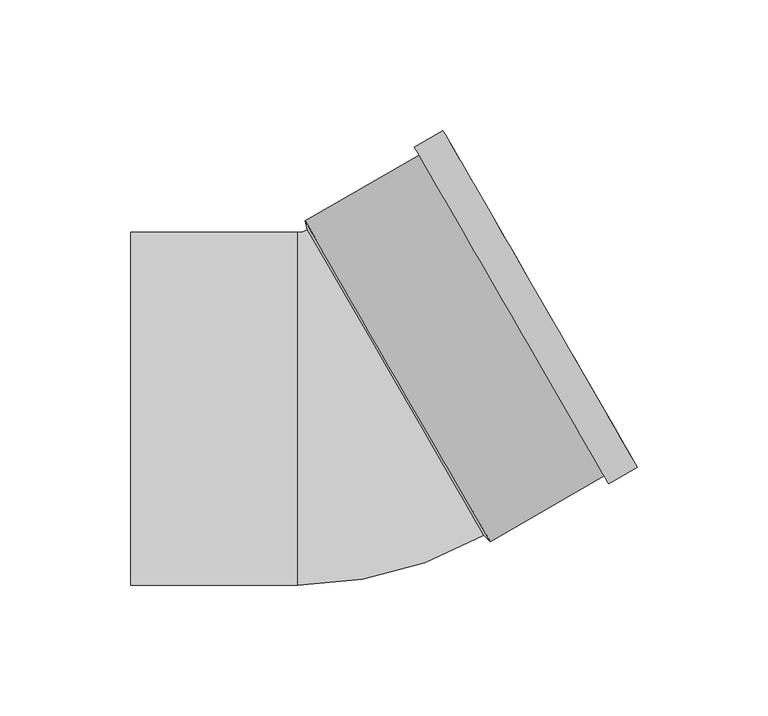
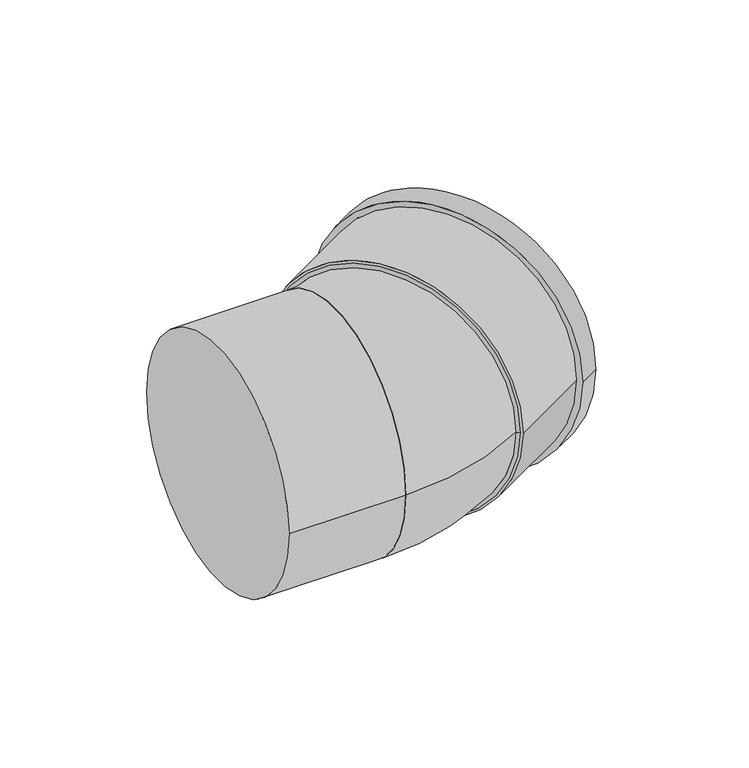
"""IFC4 building model written with IfcOpenShell, lengths in millimetres: pipe fitting geometry, Superdrain SKB Bend : Superdrain SKB Bend."""

from ifc_helpers import new_model, si_unit, point, frame, origin, origin_2d, place, context, project, spatial, polyline, circle_curve, ellipse_curve, trimmed, segment, composite_curve, outline, extrude, source, transform, mapped, element, save
from ifc_brep_helpers import plane_surface, revolved_surface, advanced_brep


def pipe_fitting_1ebebd56(model_context):
    return source(origin(), model_context, "Body", "SolidModel", [
        advanced_brep(
        [(51.0705081, -48.4567148, 0.0), (-16.4294919, 68.4567148, 0.0), (-20.0, -67.5, 0.0), (-20.0, 67.5, 0.0)],
        [
            (0, 1, circle_curve(frame((17.3205081, 10.0, 0.0), z_axis=(0.8660254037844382, 0.5000000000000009, 0.0), x_axis=(-0.5000000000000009, 0.8660254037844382, 0.0)), 67.5)),
            (1, 0, circle_curve(frame((17.3205081, 10.0, 0.0), z_axis=(0.8660254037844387, 0.4999999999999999, 0.0), x_axis=(-0.4999999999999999, 0.8660254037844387, 0.0)), 67.5)),
            (2, 3, circle_curve(frame((-20.0, 0.0, 0.0), z_axis=(-1.0, 0.0, 0.0), x_axis=(0.0, 1.0, 0.0)), 67.5)),
            (3, 2, circle_curve(frame((-20.0, 0.0, 0.0), z_axis=(-1.0, 0.0, 0.0), x_axis=(0.0, 1.0, 0.0)), 67.5)),
            (3, 1, circle_curve(frame((-20.0, 74.6410162, 0.0), z_axis=(0.0, 0.0, 1.0), x_axis=(1.0, 0.0, 0.0)), 7.1410162)),
            (0, 2, circle_curve(frame((-20.0, 74.6410162, 0.0), z_axis=(0.0, 0.0, -1.0), x_axis=(1.0, 0.0, 0.0)), 142.1410162)),
        ],
        [
            plane_surface(frame((17.3205081, 10.0, 0.0), z_axis=(0.8660254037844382, 0.5000000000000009, 0.0), x_axis=(0.0, 0.0, -1.0))),
            plane_surface(frame((-20.0, 0.0, 0.0), z_axis=(-1.0, 0.0, 0.0), x_axis=(0.0, 0.0, -1.0))),
            revolved_surface(trimmed(ellipse_curve(frame((54.6410162, 74.6410162, 0.0), z_axis=(0.0, -1.0, 0.0), x_axis=(-1.0, 0.0, 0.0)), 67.5, 67.5), [point((-12.8589838, 74.6410162, 0.0))], [point((122.1410162, 74.6410162, 0.0))], True, "CARTESIAN"), (-20.0, 74.6410162, 0.0), (0.0, 0.0, 1.0)),
            revolved_surface(trimmed(ellipse_curve(frame((54.6410162, 74.6410162, 0.0), z_axis=(0.0, -1.0, 0.0), x_axis=(-1.0, 0.0, 0.0)), 67.5, 67.5), [point((122.1410162, 74.6410162, 0.0))], [point((-12.8589838, 74.6410162, 0.0))], True, "CARTESIAN"), (-20.0, 74.6410162, 0.0), (0.0, 0.0, 1.0)),
        ],
        [
            (0, [[1, 2]]),
            (1, [[3, 4]]),
            (2, [[-4, 5, -1, 6]]),
            (3, [[-3, -6, -2, -5]]),
        ],
    ),
        extrude(outline(composite_curve([segment(trimmed(circle_curve(origin_2d(), 70.875), [point((0.0, 70.875))], [point((0.0, -70.875))], False, "CARTESIAN"), True, "CONTINUOUS"), segment(trimmed(circle_curve(origin_2d(), 70.875), [point((0.0, -70.875))], [point((0.0, 70.875))], False, "CARTESIAN"), True, "CONTINUOUS")], self_intersect=False), holes=[composite_curve([segment(trimmed(circle_curve(origin_2d(), 67.5), [point((0.0, 67.5))], [point((0.0, -67.5))], True, "CARTESIAN"), True, "CONTINUOUS"), segment(trimmed(circle_curve(origin_2d(), 67.5), [point((0.0, -67.5))], [point((0.0, 67.5))], True, "CARTESIAN"), True, "CONTINUOUS")], self_intersect=False)]), frame((18.1865335, 10.5, 0.0), z_axis=(0.8660254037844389, 0.49999999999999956, 0.0), x_axis=(0.0, 0.0, 1.0)), (0.0, 0.0, 1.0), 63.0),
        extrude(outline(composite_curve([segment(trimmed(circle_curve(origin_2d(), 74.41875), [point((0.0, -74.41875))], [point((0.0, 74.41875))], False, "CARTESIAN"), True, "CONTINUOUS"), segment(trimmed(circle_curve(origin_2d(), 74.41875), [point((0.0, 74.41875))], [point((0.0, -74.41875))], False, "CARTESIAN"), True, "CONTINUOUS")], self_intersect=False), holes=[composite_curve([segment(trimmed(circle_curve(origin_2d(), 67.5), [point((0.0, -67.5))], [point((0.0, 67.5))], True, "CARTESIAN"), True, "CONTINUOUS"), segment(trimmed(circle_curve(origin_2d(), 67.5), [point((0.0, 67.5))], [point((0.0, -67.5))], True, "CARTESIAN"), True, "CONTINUOUS")], self_intersect=False)]), frame((61.8342138, 35.7, 0.0), z_axis=(0.866025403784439, 0.49999999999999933, 0.0), x_axis=(0.0, 0.0, 1.0)), (0.0, 0.0, 1.0), 12.6),
        advanced_brep(
        [(53.6240335, -50.8795505, 0.0), (-17.2509665, 71.8795505, 0.0), (51.0705081, -48.4567148, 0.0), (-16.4294919, 68.4567148, 0.0)],
        [
            (0, 1, circle_curve(frame((18.1865335, 10.5, 0.0), z_axis=(0.8660254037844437, 0.4999999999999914, 0.0), x_axis=(0.49999999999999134, -0.8660254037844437, 0.0)), 70.875)),
            (1, 0, circle_curve(frame((18.1865335, 10.5, 0.0), z_axis=(0.8660254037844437, 0.4999999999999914, 0.0), x_axis=(-0.4999999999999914, 0.8660254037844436, 0.0)), 70.875)),
            (2, 3, circle_curve(frame((17.3205081, 10.0, 0.0), z_axis=(-0.8660254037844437, -0.4999999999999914, 0.0), x_axis=(-0.4999999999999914, 0.8660254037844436, 0.0)), 67.5)),
            (3, 2, circle_curve(frame((17.3205081, 10.0, 0.0), z_axis=(-0.8660254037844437, -0.4999999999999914, 0.0), x_axis=(0.49999999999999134, -0.8660254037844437, 0.0)), 67.5)),
            (3, 1),
            (0, 2),
        ],
        [
            plane_surface(frame((18.1865335, 10.5, 0.0), z_axis=(0.8660254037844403, 0.4999999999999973, 0.0), x_axis=(0.0, 0.0, -1.0))),
            plane_surface(frame((17.3205081, 10.0, 0.0), z_axis=(-0.8660254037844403, -0.4999999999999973, 0.0), x_axis=(0.0, 0.0, -1.0))),
            revolved_surface(polyline([(-16.42949188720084, 68.45671468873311, 0.0), (-17.2509665, 71.8795505, 0.0)]), (0.0, 0.0, 0.0), (0.8660254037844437, 0.4999999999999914, 0.0)),
            revolved_surface(polyline([(51.07050805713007, -48.456714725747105, 0.0), (53.624033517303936, -50.87955051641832, 0.0)]), (0.0, 0.0, 0.0), (0.8660254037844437, 0.4999999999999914, 0.0)),
        ],
        [
            (0, [[1, 2]]),
            (1, [[3, 4]]),
            (2, [[-4, 5, -1, 6]]),
            (3, [[-3, -6, -2, -5]]),
        ],
    ),
        extrude(outline(composite_curve([segment(trimmed(circle_curve(origin_2d(), 67.5), [point((-67.5, 0.0))], [point((67.5, 0.0))], False, "CARTESIAN"), True, "CONTINUOUS"), segment(trimmed(circle_curve(origin_2d(), 67.5), [point((67.5, 0.0))], [point((-67.5, 0.0))], False, "CARTESIAN"), True, "CONTINUOUS")], self_intersect=False)), frame((-84.0, 0.0, 0.0), z_axis=(1.0, 0.0, 0.0), x_axis=(0.0, 1.0, 0.0)), (0.0, 0.0, 1.0), 64.0),
    ])


if __name__ == "__main__":
    model = new_model("IFC4")
    model_context = context("Model", 3, world=origin())
    ifc_project = project(units=[si_unit("LENGTHUNIT", "METRE", prefix="MILLI")], contexts=[model_context])
    site = spatial("IfcSite", under=ifc_project)
    building = spatial("IfcBuilding", under=site)
    placement = place(None, origin())
    pipe_fitting_shape = pipe_fitting_1ebebd56(model_context)
    element("IfcPipeFitting", 1, ObjectType="Superdrain SKB Bend : Superdrain SKB Bend", at=placement, inside=building, context=model_context, shape_type="MappedRepresentation", body=[
        mapped(pipe_fitting_shape, transform((0.0, 0.0, 0.0), x_axis=(1.0, 0.0, 0.0), y_axis=(0.0, 1.0, 0.0), z_axis=(0.0, 0.0, 1.0))),
    ])
    save(model, "model.ifc")
